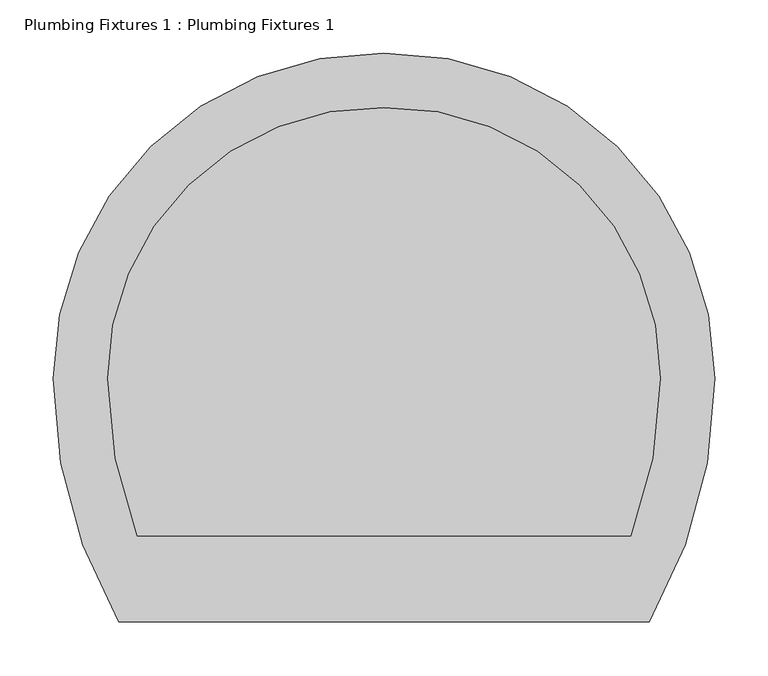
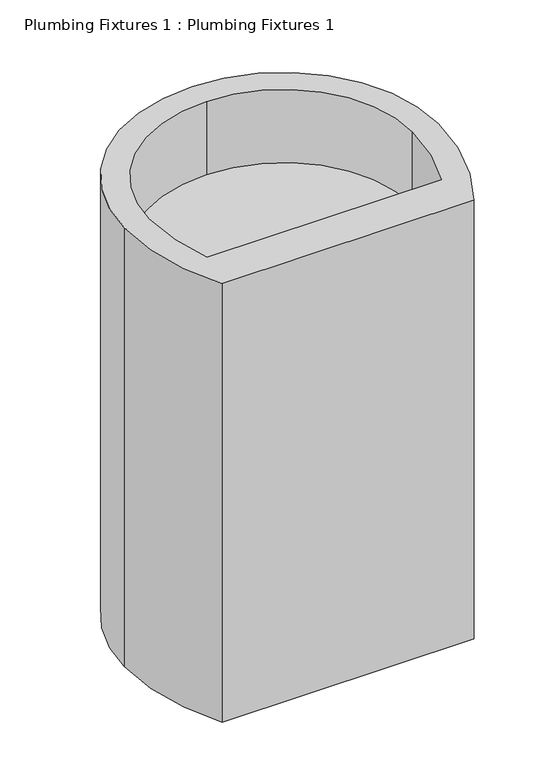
"""IFC4 building model written with IfcOpenShell, lengths in millimetres: flow terminal geometry, Plumbing Fixtures 1 : Plumbing Fixtures 1."""

from ifc_helpers import new_model, si_unit, frame, origin, place, context, project, spatial, polyline, circle_curve, source, transform, mapped, element, save
from ifc_brep_helpers import plane_surface, cylinder_surface, revolved_surface, advanced_brep


def plumbing_fixtures_1_plumbing_fixtures_1_25a78d79(model_context):
    return source(origin(), model_context, "Body", "AdvancedBrep", [
        advanced_brep(
        [(8345.5083113, 736.3980307, 4262.4), (8035.7343858, 431.6386172, 4262.4), (8096.9443288, 203.2, 4262.4), (8594.0722939, 203.2, 4262.4), (8655.2822369, 431.6386172, 4262.4), (8604.4822369, 431.6386172, 4262.4), (8576.6825685, 283.9741213, 4262.4), (8114.3340542, 283.9741213, 4262.4), (8086.5343858, 431.6386172, 4262.4), (8345.5083113, 685.5899119, 4262.4), (8345.5083113, 736.3980307, 3348.0), (8655.2822369, 431.6386172, 3348.0), (8594.0722939, 203.2, 3348.0), (8096.9443288, 203.2, 3348.0), (8035.7343858, 431.6386172, 3348.0), (8604.4822369, 431.6386172, 4110.0), (8345.5083113, 685.5899119, 4110.0), (8086.5343858, 431.6386172, 4110.0), (8114.3340542, 283.9741213, 4110.0), (8576.6825685, 283.9741213, 4110.0)],
        [
            (0, 1, circle_curve(frame((8340.5343858, 431.6386172, 4262.4), z_axis=(0.0, 0.0, 1.0), x_axis=(1.0, 0.0, 0.0)), 304.8)),
            (1, 2, circle_curve(frame((8492.6116203, 431.6386172, 4262.4), z_axis=(0.0, 0.0, 1.0), x_axis=(1.0, 0.0, 0.0)), 456.8772345)),
            (2, 3),
            (3, 4, circle_curve(frame((8198.4050024, 431.6386172, 4262.4), z_axis=(0.0, 0.0, 1.0), x_axis=(1.0, 0.0, 0.0)), 456.8772345)),
            (4, 0, circle_curve(frame((8350.4822369, 431.6386172, 4262.4), z_axis=(0.0, 0.0, 1.0), x_axis=(1.0, 0.0, 0.0)), 304.8)),
            (5, 6, circle_curve(frame((8198.4050024, 431.6386172, 4262.4), z_axis=(0.0, 0.0, -1.0), x_axis=(1.0, 0.0, 0.0)), 406.0772345)),
            (6, 7),
            (7, 8, circle_curve(frame((8492.6116203, 431.6386172, 4262.4), z_axis=(0.0, 0.0, -1.0), x_axis=(1.0, 0.0, 0.0)), 406.0772345)),
            (8, 9, circle_curve(frame((8340.5343858, 431.6386172, 4262.4), z_axis=(0.0, 0.0, -1.0), x_axis=(1.0, 0.0, 0.0)), 254.0)),
            (9, 5, circle_curve(frame((8350.4822369, 431.6386172, 4262.4), z_axis=(0.0, 0.0, -1.0), x_axis=(1.0, 0.0, 0.0)), 254.0)),
            (10, 11, circle_curve(frame((8350.4822369, 431.6386172, 3348.0), z_axis=(0.0, 0.0, -1.0), x_axis=(1.0, 0.0, 0.0)), 304.8)),
            (11, 12, circle_curve(frame((8198.4050024, 431.6386172, 3348.0), z_axis=(0.0, 0.0, -1.0), x_axis=(1.0, 0.0, 0.0)), 456.8772345)),
            (12, 13),
            (13, 14, circle_curve(frame((8492.6116203, 431.6386172, 3348.0), z_axis=(0.0, 0.0, -1.0), x_axis=(1.0, 0.0, 0.0)), 456.8772345)),
            (14, 10, circle_curve(frame((8340.5343858, 431.6386172, 3348.0), z_axis=(0.0, 0.0, -1.0), x_axis=(1.0, 0.0, 0.0)), 304.8)),
            (0, 10),
            (14, 1),
            (13, 2),
            (12, 3),
            (11, 4),
            (15, 16, circle_curve(frame((8350.4822369, 431.6386172, 4110.0), z_axis=(0.0, 0.0, 1.0), x_axis=(1.0, 0.0, 0.0)), 254.0)),
            (16, 17, circle_curve(frame((8340.5343858, 431.6386172, 4110.0), z_axis=(0.0, 0.0, 1.0), x_axis=(1.0, 0.0, 0.0)), 254.0)),
            (17, 18, circle_curve(frame((8492.6116203, 431.6386172, 4110.0), z_axis=(0.0, 0.0, 1.0), x_axis=(1.0, 0.0, 0.0)), 406.0772345)),
            (18, 19),
            (19, 15, circle_curve(frame((8198.4050024, 431.6386172, 4110.0), z_axis=(0.0, 0.0, 1.0), x_axis=(1.0, 0.0, 0.0)), 406.0772345)),
            (19, 6),
            (5, 15),
            (18, 7),
            (17, 8),
            (16, 9),
        ],
        [
            plane_surface(frame((8645.3343858, 431.6386172, 4262.4), z_axis=(0.0, 0.0, 1.0), x_axis=(0.0, 1.0, 0.0))),
            plane_surface(frame((8645.3343858, 431.6386172, 3348.0), z_axis=(0.0, 0.0, -1.0), x_axis=(0.0, -1.0, 0.0))),
            cylinder_surface(frame((8340.5343858, 431.6386172, 3348.0), z_axis=(0.0, 0.0, 1.0), x_axis=(1.0, 0.0, 0.0)), 304.8),
            cylinder_surface(frame((8492.6116203, 431.6386172, 3348.0), z_axis=(0.0, 0.0, 1.0), x_axis=(1.0, 0.0, 0.0)), 456.8772345),
            plane_surface(frame((8096.9443288, 203.2, 4262.4), z_axis=(0.0, -1.0, 0.0), x_axis=(0.0, 0.0, -1.0))),
            cylinder_surface(frame((8198.4050024, 431.6386172, 3348.0), z_axis=(0.0, 0.0, 1.0), x_axis=(1.0, 0.0, 0.0)), 456.8772345),
            cylinder_surface(frame((8350.4822369, 431.6386172, 3348.0), z_axis=(0.0, 0.0, 1.0), x_axis=(1.0, 0.0, 0.0)), 304.8),
            plane_surface(frame((8604.4822369, 431.6386172, 4110.0), z_axis=(0.0, 0.0, 1.0), x_axis=(0.0, -1.0, 0.0))),
            revolved_surface(polyline([(8604.482236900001, 431.6386172, 4110.0), (8604.482236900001, 431.6386172, 4262.4)]), (8198.4050024, 431.6386172, 4262.4), (0.0, 0.0, -1.0)),
            plane_surface(frame((8576.6825685, 283.9741213, 4110.0), z_axis=(0.0, 1.0, 0.0), x_axis=(0.0, 0.0, 1.0))),
            revolved_surface(polyline([(8898.6888548, 431.6386172, 4110.0), (8898.6888548, 431.6386172, 4262.4)]), (8492.6116203, 431.6386172, 4262.4), (0.0, 0.0, -1.0)),
            revolved_surface(polyline([(8594.5343858, 431.6386172, 4110.0), (8594.5343858, 431.6386172, 4262.4)]), (8340.5343858, 431.6386172, 4262.4), (0.0, 0.0, -1.0)),
            revolved_surface(polyline([(8604.4822369, 431.6386172, 4110.0), (8604.4822369, 431.6386172, 4262.4)]), (8350.4822369, 431.6386172, 4262.4), (0.0, 0.0, -1.0)),
        ],
        [
            (0, [[1, 2, 3, 4, 5], [6, 7, 8, 9, 10]]),
            (1, [[11, 12, 13, 14, 15]]),
            (2, [[-1, 16, -15, 17]]),
            (3, [[-2, -17, -14, 18]]),
            (4, [[-3, -18, -13, 19]]),
            (5, [[-4, -19, -12, 20]]),
            (6, [[-5, -20, -11, -16]]),
            (7, [[21, 22, 23, 24, 25]]),
            (8, [[-25, 26, -6, 27]]),
            (9, [[-24, 28, -7, -26]]),
            (10, [[-23, 29, -8, -28]]),
            (11, [[-22, 30, -9, -29]]),
            (12, [[-21, -27, -10, -30]]),
        ],
    ),
    ])


if __name__ == "__main__":
    model = new_model("IFC4")
    model_context = context("Model", 3, world=origin())
    ifc_project = project(units=[si_unit("LENGTHUNIT", "METRE", prefix="MILLI")], contexts=[model_context])
    site = spatial("IfcSite", under=ifc_project)
    building = spatial("IfcBuilding", under=site)
    placement = place(None, origin())
    plumbing_fixtures_1_plumbing_fixtures_1_shape = plumbing_fixtures_1_plumbing_fixtures_1_25a78d79(model_context)
    element("IfcFlowTerminal", 1, ObjectType="Plumbing Fixtures 1 : Plumbing Fixtures 1", at=placement, inside=building, context=model_context, shape_type="MappedRepresentation", body=[
        mapped(plumbing_fixtures_1_plumbing_fixtures_1_shape, transform((0.0, 0.0, 0.0), x_axis=(1.0, 0.0, 0.0), y_axis=(0.0, 1.0, 0.0), z_axis=(0.0, 0.0, 1.0))),
    ])
    save(model, "model.ifc")
